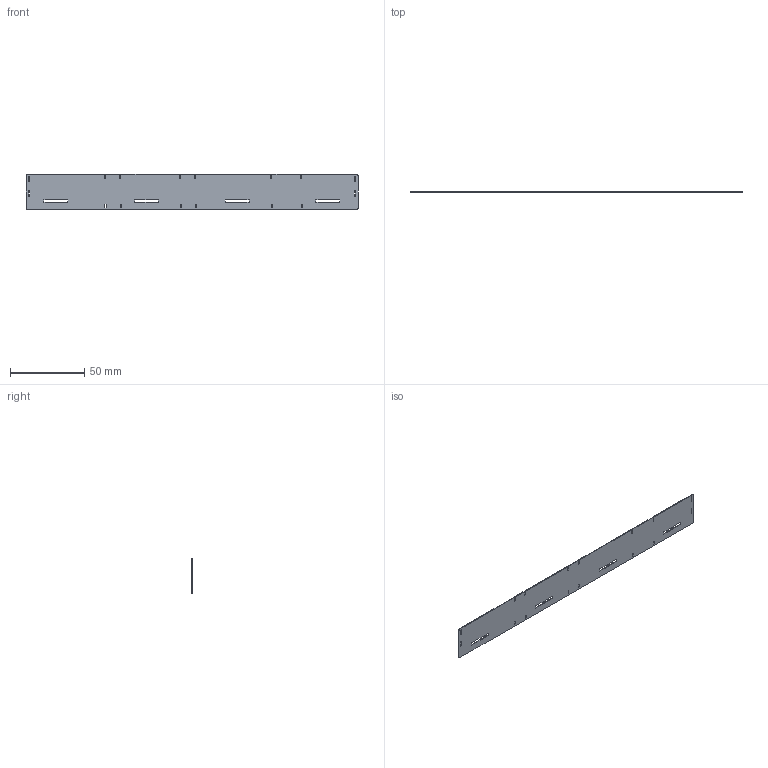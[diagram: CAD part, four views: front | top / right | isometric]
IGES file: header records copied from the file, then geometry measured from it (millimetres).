
Start section:  PTC IGES file: 0394117_rueckwand.igs
Global section: file name: 0394117_rueckwand.igs; native system: Pro/ENGINEER by Parametric Technology Corporation; preprocessor: 2005170; author: nagl; organization: Unknown; date: 050809.181646; units: millimetre
Bounding box: 223.4 x 0.5 x 23.6 mm (x, y, z)
Volume: 2559.6 mm3; surface area: 10608.2 mm2
Topology: 1 solids, 1 shells, 102 faces, 300 edges, 200 vertices
Faces by surface type: bspline 102
